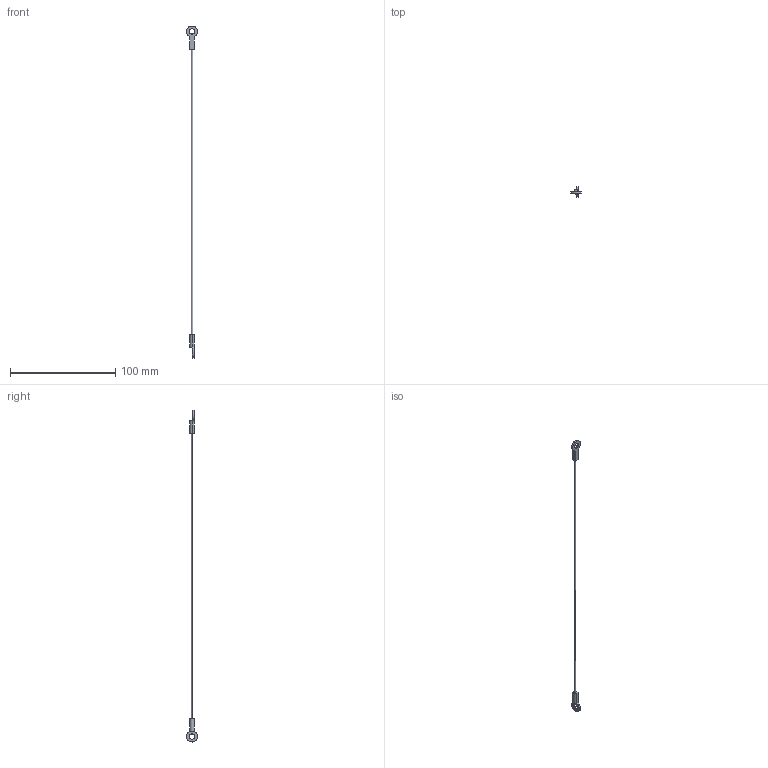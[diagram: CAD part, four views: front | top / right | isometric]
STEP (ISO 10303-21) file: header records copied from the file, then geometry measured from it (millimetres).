
FILE_DESCRIPTION (( 'STEP AP203' ), '1' );
FILE_NAME ('LA1070.I06-304B1.step', '2026-03-23T14:51:11', ( '' ), ( '' ), 'SwSTEP 2.0', 'SolidWorks 2019', '' );
FILE_SCHEMA (( 'CONFIG_CONTROL_DESIGN' ));
Length unit declared in the file: millimetre
Products named in the file (1): LA1070.I06-304B1
Bounding box: 10.4 x 10.38 x 315.19 mm (x, y, z)
Volume: 1074.7 mm3; surface area: 2130.3 mm2
Topology: 1 solids, 1 shells, 27 faces, 65 edges, 42 vertices
Faces by surface type: plane 16, cylinder 11
Entity records: 874 total; most frequent: DIRECTION 143, CARTESIAN_POINT 135, ORIENTED_EDGE 130, EDGE_CURVE 65, AXIS2_PLACEMENT_3D 50, LINE 43, VECTOR 43, VERTEX_POINT 42
